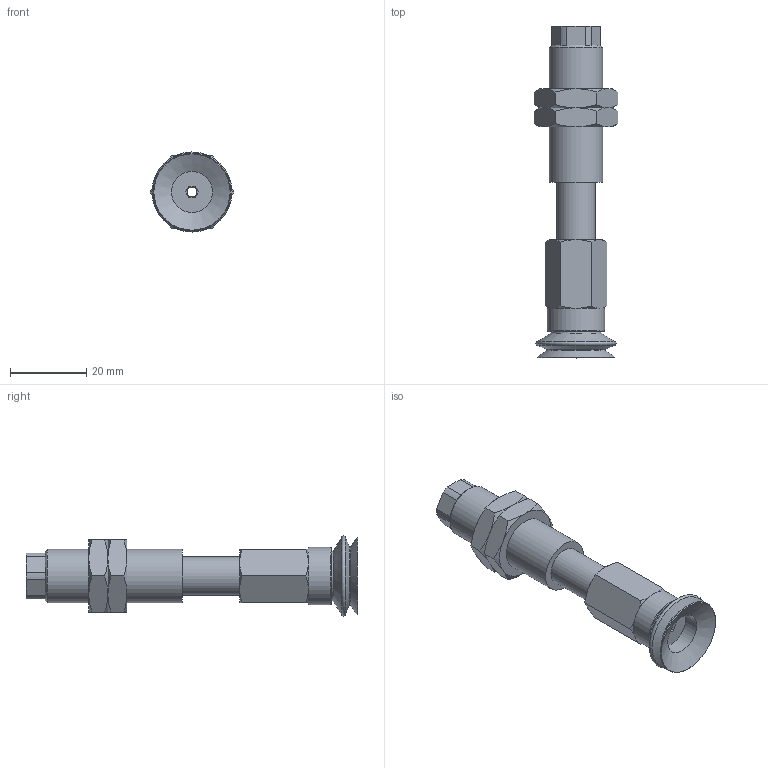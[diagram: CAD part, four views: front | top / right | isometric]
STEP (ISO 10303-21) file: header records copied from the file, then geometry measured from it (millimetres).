
FILE_DESCRIPTION(('STEP AP203'),'1');
FILE_NAME('.stp','2025-08-27T07:40:07',(' '),(' '),'Spatial InterOp 3D',' ',' ');
FILE_SCHEMA(('CONFIG_CONTROL_DESIGN'));
Length unit declared in the file: millimetre
Products named in the file (7): BNABPJTS-20-15-※; ADAPTER; NAPBTS-20-15--M; Adapter-20-NAPJ; NUT-NAPJ-20-15-s; NAPJTS-20-15-FBODY; BPJG-20-※
Assembly tree (7 placements, depth 2):
  BNABPJTS-20-15-※
    ADAPTER
    NAPBTS-20-15--M
    Adapter-20-NAPJ
    NUT-NAPJ-20-15-s  x2
    NAPJTS-20-15-FBODY
    BPJG-20-※
Bounding box: 21.94 x 87 x 21 mm (x, y, z)
Volume: 13452.3 mm3; surface area: 10720.8 mm2
Topology: 7 solids, 7 shells, 127 faces, 272 edges, 165 vertices
Faces by surface type: plane 50, cone 49, cylinder 21, torus 7
Full cylindrical faces by diameter (mm): 2.5 x1, 3 x2, 4.134 x2, 4.6 x1, 5 x1, 10 x2, 10.8 x1, 11 x1, 13.188 x2, 14 x1, 15 x1
Entity records: 3188 total; most frequent: CARTESIAN_POINT 762, DIRECTION 442, ORIENTED_EDGE 368, AXIS2_PLACEMENT_3D 194, EDGE_CURVE 184, EDGE_LOOP 154, VERTEX_POINT 130, FACE_OUTER_BOUND 125
